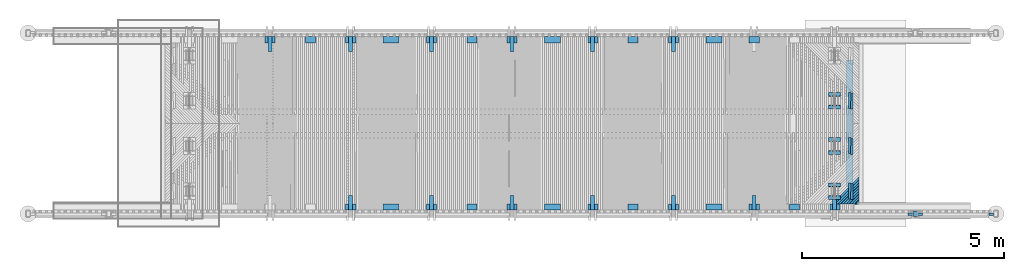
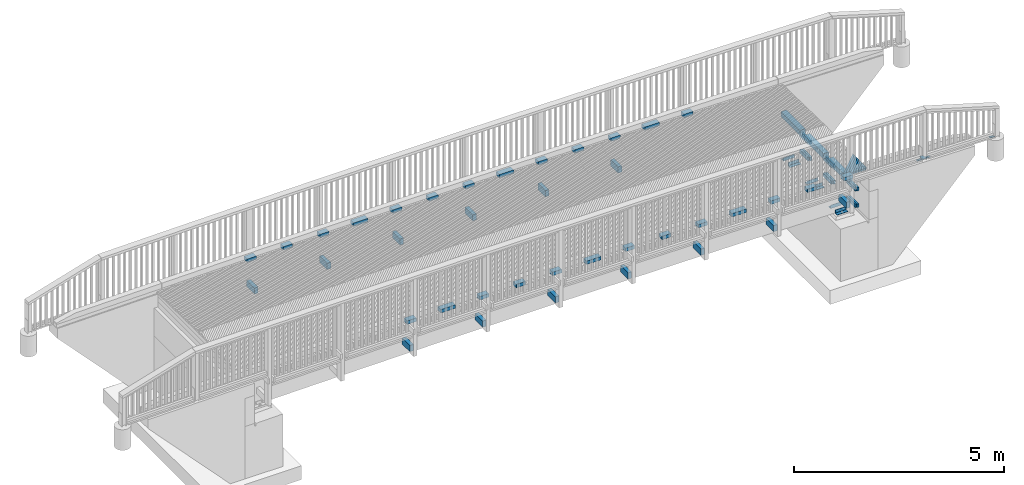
# One storey, part 48 of 52: 73 beams.
"""IFC2X3 building model written with IfcOpenShell, lengths in millimetres."""

from ifc_helpers import new_model, si_unit, frame, origin_with_axes, place, context, subcontext, project, spatial, faceted_brep, material, type_object, element, save


model = new_model("IFC2X3")

# Units and contexts
model_context = context("Model", 3, precision=1e-05, world=origin_with_axes())
body_context = subcontext(model_context, "Body", "Model", "MODEL_VIEW")
ifc_project = project(units=[si_unit("LENGTHUNIT", "METRE", prefix="MILLI"), si_unit("AREAUNIT", "SQUARE_METRE"), si_unit("VOLUMEUNIT", "CUBIC_METRE"), si_unit("MASSUNIT", "GRAM", prefix="KILO"), si_unit("TIMEUNIT", "SECOND"), si_unit("PLANEANGLEUNIT", "RADIAN"), si_unit("SOLIDANGLEUNIT", "STERADIAN"), si_unit("THERMODYNAMICTEMPERATUREUNIT", "DEGREE_CELSIUS"), si_unit("LUMINOUSINTENSITYUNIT", "LUMEN")], contexts=[model_context])

# Site, building, storey
site_placement = place(None, origin_with_axes())
site = spatial("IfcSite", under=ifc_project, at=site_placement, Name="Undefined", CompositionType="ELEMENT")
building_placement = place(site_placement, origin_with_axes())
building = spatial("IfcBuilding", under=site, at=building_placement, Name="Undefined", CompositionType="ELEMENT")
storey_placement = place(building_placement, origin_with_axes())
storey = spatial("IfcBuildingStorey", under=building, at=storey_placement, Name="Undefined", CompositionType="ELEMENT", Elevation=0.0)

# Beams
ifc_material_1 = material(Name="TIMBER/Timber_Undefined")
beam_type_1 = type_object("IfcBeamType", Name="150*100", PredefinedType="NOTDEFINED")
for number, where, z_axis, x_axis in (
    (1, (12805.9377995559, 289.999999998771, 3199.40960826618), (0.0, -1.0, 0.0), (0.999944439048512, 0.0, -0.0105412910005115)),
    (2, (8804.3535367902, 289.999999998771, 3218.05327472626), (0.0, -1.0, 0.0), (0.999992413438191, 0.0, -0.00389526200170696)),
    (3, (4802.73374412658, 289.999999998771, 3210.1013407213), (0.0, -1.0, 0.0), (0.9999962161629, 0.0, 0.002750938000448)),
    (4, (4802.73374412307, 4439.99999999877, 3210.10134072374), (0.0, -1.0, 0.0), (0.9999962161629, 0.0, 0.002750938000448)),
    (5, (8804.3535367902, 4439.99999999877, 3218.05327472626), (0.0, -1.0, 0.0), (0.999992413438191, 0.0, -0.00389526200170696)),
    (6, (12805.9377995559, 4439.99999999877, 3199.40960826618), (0.0, -1.0, 0.0), (0.999944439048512, 0.0, -0.0105412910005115)),
):
    element("IfcBeam", number, at=place(storey_placement, frame(where, z_axis=z_axis, x_axis=x_axis)), inside=storey, type_object=beam_type_1, material=ifc_material_1, Name="TÖRMÄYSJOHDE", ObjectType="150*100", context=body_context, shape_type="Brep", body=[
        faceted_brep([(-3.63797880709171e-12, 50.0, -75.0), (-3.63797880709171e-12, 50.0, 75.0), (399.996161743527, 49.9999999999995, 75.0), (399.996161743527, 49.9999999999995, -75.0), (0.0, -49.9999999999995, 75.0), (399.996161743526, -50.0000000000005, 75.0), (0.0, -49.9999999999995, -75.0), (399.996161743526, -50.0000000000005, -75.0)], [[[0, 1, 2, 3]], [[1, 4, 5, 2]], [[4, 6, 7, 5]], [[6, 0, 3, 7]], [[5, 7, 3, 2]], [[6, 4, 1, 0]]]),
    ])
for number, where, z_axis, x_axis in (
    (7, (2876.78354707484, 4439.99999999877, 3196.15064859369), (0.0, -1.0, 0.0), (0.999952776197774, 0.0, 0.00971830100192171)),
    (8, (15881.7966501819, 289.999999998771, 3166.35655532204), (0.0, -1.0, 0.0), (0.999929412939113, 0.0, -0.0118814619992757)),
    (9, (14881.4642555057, 289.999999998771, 3178.62153167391), (0.0, -1.0, 0.0), (0.999947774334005, 0.0, -0.0102200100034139)),
    (10, (13881.1128627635, 4439.99999999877, 3189.22438612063), (0.0, -1.0, 0.0), (0.99996337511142, 0.0, -0.00855853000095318)),
    (11, (13881.1128627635, 289.999999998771, 3189.22438612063), (0.0, -1.0, 0.0), (0.99996337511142, 0.0, -0.00855853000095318)),
    (12, (11880.3641300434, 4439.99999999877, 3205.44361680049), (0.0, -1.0, 0.0), (0.999986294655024, 0.0, -0.00523550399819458)),
    (13, (11880.3641300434, 289.999999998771, 3205.44361680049), (0.0, -1.0, 0.0), (0.999986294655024, 0.0, -0.00523550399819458)),
    (14, (10879.9723136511, 4439.99999999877, 3211.05994825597), (0.0, -1.0, 0.0), (0.999993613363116, 0.0, -0.00357396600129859)),
    (15, (10879.9723136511, 289.999999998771, 3211.05994825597), (0.0, -1.0, 0.0), (0.999993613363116, 0.0, -0.00357396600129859)),
    (16, (9879.57254634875, 4439.99999999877, 3215.01406825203), (0.0, -1.0, 0.0), (0.999998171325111, 0.0, -0.00191241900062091)),
    (17, (9879.57254634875, 289.999999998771, 3215.01406825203), (0.0, -1.0, 0.0), (0.999998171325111, 0.0, -0.00191241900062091)),
    (18, (7878.76020647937, 4439.99999999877, 3217.93563478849), (0.0, -1.0, 0.0), (0.99999900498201, 0.0, 0.00141068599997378)),
    (19, (7878.76020647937, 289.999999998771, 3217.93563478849), (0.0, -1.0, 0.0), (0.99999900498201, 0.0, 0.00141068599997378)),
    (20, (6878.35315767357, 4439.99999999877, 3216.90307326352), (0.0, -1.0, 0.0), (0.99999528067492, 0.0, 0.00307223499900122)),
    (21, (6878.35315767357, 289.999999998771, 3216.90307326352), (0.0, -1.0, 0.0), (0.99999528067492, 0.0, 0.00307223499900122)),
    (22, (5877.94920546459, 4439.99999999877, 3214.20828414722), (0.0, -1.0, 0.0), (0.99998879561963, 0.0, 0.00473377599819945)),
    (23, (5877.94920546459, 289.999999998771, 3214.20828414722), (0.0, -1.0, 0.0), (0.99998879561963, 0.0, 0.00473377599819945)),
    (24, (3877.16163831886, 4439.99999999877, 3203.83205748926), (0.0, -1.0, 0.0), (0.999967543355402, 0.0, 0.00805681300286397)),
    (25, (3877.16163831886, 289.999999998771, 3203.83205748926), (0.0, -1.0, 0.0), (0.999967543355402, 0.0, 0.00805681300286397)),
    (26, (1876.41959979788, 4439.99999999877, 3186.80706939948), (0.0, -1.0, 0.0), (0.999935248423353, 0.0, 0.0113797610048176)),
):
    element("IfcBeam", number, at=place(storey_placement, frame(where, z_axis=z_axis, x_axis=x_axis)), inside=storey, type_object=beam_type_1, material=ifc_material_1, Name="TÖRMÄYSJOHDE", ObjectType="150*100", context=body_context, shape_type="Brep", body=[
        faceted_brep([(-3.63797880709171e-12, 50.0, -75.0), (-3.63797880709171e-12, 50.0, 75.0), (250.000589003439, 50.0000000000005, 75.0), (250.000589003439, 50.0000000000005, -75.0), (0.0, -49.9999999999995, 75.0), (250.000589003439, -50.0, 75.0), (0.0, -49.9999999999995, -75.0), (250.000589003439, -50.0, -75.0)], [[[0, 1, 2, 3]], [[1, 4, 5, 2]], [[4, 6, 7, 5]], [[6, 0, 3, 7]], [[5, 7, 3, 2]], [[6, 4, 1, 0]]]),
    ])
beam_type_2 = type_object("IfcBeamType", Name="150*150", PredefinedType="NOTDEFINED")
for number, where, z_axis, x_axis, name in (
    (27, (16375.0061224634, 3035.00113004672, 2658.99214114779), (-4.45050000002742e-05, 0.0, 0.999999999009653), (0.0, 1.0, 0.0), "BEAM"),
    (28, (16375.0061224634, 1915.00113004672, 2658.99214114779), (-4.45050000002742e-05, 0.0, 0.999999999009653), (0.0, 1.0, 0.0), "BEAM"),
    (29, (16375.0061224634, 795.001130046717, 2658.99214114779), (-4.45050000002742e-05, 0.0, 0.999999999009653), (0.0, 1.0, 0.0), "BEAM"),
):
    element("IfcBeam", number, at=place(storey_placement, frame(where, z_axis=z_axis, x_axis=x_axis)), inside=storey, type_object=beam_type_2, material=ifc_material_1, Name=name, ObjectType="150*150", context=body_context, shape_type="Brep", body=[
        faceted_brep([(3.63797880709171e-12, 75.0000000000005, -75.0), (3.63797880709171e-12, 75.0000000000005, 75.0), (900.0, 75.0, 75.0000000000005), (900.0, 74.9999999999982, -74.9999999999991), (0.0, -75.0000000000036, 75.0000000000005), (900.0, -75.0000000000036, 75.0000000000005), (0.0, -75.0, -74.9999999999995), (900.0, -75.0, -74.9999999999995)], [[[0, 1, 2, 3]], [[1, 4, 5, 2]], [[4, 6, 7, 5]], [[6, 0, 3, 7]], [[5, 7, 3, 2]], [[6, 4, 1, 0]]]),
    ])
ifc_material_2 = material(Name="STEEL/AISI316")
beam_type_3 = type_object("IfcBeamType", Name="PL60*10", PredefinedType="NOTDEFINED")
for number, where, z_axis, x_axis in (
    (30, (19940.0034960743, 109.999999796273, 3073.75999999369), (0.000116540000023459, 0.999999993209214, 0.0), (-0.999999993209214, 0.000116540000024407, 0.0)),
    (31, (18059.9965039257, 109.999999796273, 3101.8699999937), (-0.000116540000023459, 0.999999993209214, 0.0), (0.999999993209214, 0.000116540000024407, 0.0)),
    (32, (17940.0034960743, 109.999999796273, 3101.86999999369), (0.000116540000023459, 0.999999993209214, 0.0), (-0.999999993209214, 0.000116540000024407, 0.0)),
):
    element("IfcBeam", number, at=place(storey_placement, frame(where, z_axis=z_axis, x_axis=x_axis)), inside=storey, type_object=beam_type_3, material=ifc_material_2, Name="KAIDEPYLVÄS", ObjectType="PL60*10", context=body_context, shape_type="Brep", body=[
        faceted_brep([(0.0, 5.0, -30.0), (3.63797880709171e-12, 5.0, 30.0000000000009), (115.000000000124, 5.0, 30.0000000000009), (115.000000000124, 5.0, -30.0), (3.63797880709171e-12, -5.0, 30.0000000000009), (115.000000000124, -5.0, 30.0000000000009), (0.0, -5.0, -30.0), (115.000000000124, -5.0, -30.0)], [[[0, 1, 2, 3]], [[1, 4, 5, 2]], [[4, 6, 7, 5]], [[6, 0, 3, 7]], [[5, 7, 3, 2]], [[6, 4, 1, 0]]]),
    ])
beam_type_4 = type_object("IfcBeamType", Name="PL100*10", PredefinedType="NOTDEFINED")
beam_1_placement = place(storey_placement, frame((17999.9999998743, 55.0200000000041, 3117.67000000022), z_axis=(1.0, 0.0, 0.0), x_axis=(0.0, 1.0, 0.0)))
element("IfcBeam", 33, at=beam_1_placement, inside=storey, type_object=beam_type_4, material=ifc_material_2, Name="KAIDEPYLVÄS", ObjectType="PL100*10", context=body_context, shape_type="Brep", body=[
    faceted_brep([(0.0, 5.0, -50.0), (0.0, 5.0, 50.0), (140.0, 5.0, 50.0), (140.0, 5.0, -50.0), (0.0, -5.0, 50.0), (140.0, -5.0, 50.0), (0.0, -5.0, -50.0), (140.0, -5.0, -50.0)], [[[0, 1, 2, 3]], [[1, 4, 5, 2]], [[4, 6, 7, 5]], [[6, 0, 3, 7]], [[5, 7, 3, 2]], [[6, 4, 1, 0]]]),
])
ifc_material_3 = material(Name="STEEL/S235JR")
beam_type_5 = type_object("IfcBeamType", Name="L100*10", PredefinedType="NOTDEFINED")
for number, where, z_axis, x_axis, name in (
    (34, (16150.0, 2767.50000000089, 2047.33), (0.0, -1.0, 0.0), (-1.0, 0.0, 0.0), "BEAM"),
    (35, (16150.0, 3082.50000000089, 2047.33), (0.0, 0.0, 1.0), (-1.0, 0.0, 0.0), "BEAM"),
    (36, (15850.0, 1962.5, 2047.33), (0.0, 1.0, 0.0), (1.0, 0.0, 0.0), "BEAM"),
    (37, (15850.0, 1647.5, 2047.33), (0.0, 0.0, 1.0), (1.0, 0.0, 0.0), "BEAM"),
    (38, (15850.0, 842.5, 2025.33), (0.0, 1.0, 0.0), (1.0, 0.0, 0.0), "BEAM"),
    (39, (15850.0, 527.5, 2025.33), (0.0, 0.0, 1.0), (1.0, 0.0, 0.0), "BEAM"),
):
    element("IfcBeam", number, at=place(storey_placement, frame(where, z_axis=z_axis, x_axis=x_axis)), inside=storey, type_object=beam_type_5, material=ifc_material_3, Name=name, ObjectType="L100*10", context=body_context, shape_type="Brep", body=[
        faceted_brep([(0.0, 50.0, -50.0), (0.0, 50.0, 50.0), (300.0, 50.0, 50.0), (300.0, 50.0, -50.0), (0.0, 40.0, 50.0), (300.0, 40.0, 50.0), (0.0, 40.0, -40.0), (300.0, 40.0, -40.0), (0.0, -50.0, -40.0), (300.0, -50.0, -40.0), (0.0, -50.0, -50.0), (300.0, -50.0, -50.0)], [[[0, 1, 2, 3]], [[1, 4, 5, 2]], [[4, 6, 7, 5]], [[6, 8, 9, 7]], [[8, 10, 11, 9]], [[10, 0, 3, 11]], [[5, 7, 9, 11, 3, 2]], [[10, 8, 6, 4, 1, 0]]]),
    ])
beam_type_6 = type_object("IfcBeamType", Name="100*60", PredefinedType="NOTDEFINED")
beam_2_placement = place(storey_placement, frame((16380.01, 2737.5, 2533.62000000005), z_axis=(0.0, 0.0, 1.0), x_axis=(0.0, 1.0, 0.0)))
element("IfcBeam", 40, at=beam_2_placement, inside=storey, type_object=beam_type_6, material=ifc_material_1, Name="BEAM", ObjectType="100*60", context=body_context, shape_type="Brep", body=[
    faceted_brep([(0.0, 30.0, -50.0), (0.0, 30.0, 50.0), (395.0, 30.0, 50.0), (395.0, 30.0, -50.0), (395.0, -25.2500000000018, 50.0), (395.0, -25.2500000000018, -50.0), (0.0, -15.2499998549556, -50.0), (0.0, -15.2499998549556, 50.0)], [[[0, 1, 2, 3]], [[3, 2, 4, 5]], [[0, 3, 5, 6]], [[1, 0, 6, 7]], [[2, 1, 7, 4]], [[6, 5, 4, 7]]]),
])
beam_3_placement = place(storey_placement, frame((16420.01, 2717.5, 2533.62000000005), z_axis=(0.0, 0.0, 1.0), x_axis=(0.0, 1.0, 0.0)))
element("IfcBeam", 41, at=beam_3_placement, inside=storey, type_object=beam_type_6, material=ifc_material_1, Name="BEAM", ObjectType="100*60", context=body_context, shape_type="Brep", body=[
    faceted_brep([(0.0, -30.0, 50.0), (0.0, -30.0, -50.0), (395.0, -30.0, -50.0), (395.0, -30.0, 50.0), (395.0, 15.2563291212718, 50.0), (0.0, 25.2563292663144, 50.0), (0.0, 25.2563292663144, -50.0), (395.0, 15.2563291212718, -50.0)], [[[0, 1, 2, 3]], [[0, 3, 4, 5]], [[1, 0, 5, 6]], [[2, 1, 6, 7]], [[3, 2, 7, 4]], [[6, 5, 4, 7]]]),
])
beam_4_placement = place(storey_placement, frame((16380.0, 2737.5, 2055.33), z_axis=(0.0, 0.0, 1.0), x_axis=(0.0, 1.0, 0.0)))
element("IfcBeam", 42, at=beam_4_placement, inside=storey, type_object=beam_type_6, material=ifc_material_1, Name="BEAM", ObjectType="100*60", context=body_context, shape_type="Brep", body=[
    faceted_brep([(0.0, 30.0, -50.0), (0.0, 30.0, 50.0), (395.0, 30.0, 50.0), (395.0, 30.0, -50.0), (395.0, -25.2500000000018, 50.0), (395.0, -25.2500000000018, -50.0), (0.0, -15.2499998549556, -50.0), (0.0, -15.2499998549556, 50.0)], [[[0, 1, 2, 3]], [[3, 2, 4, 5]], [[0, 3, 5, 6]], [[1, 0, 6, 7]], [[2, 1, 7, 4]], [[6, 5, 4, 7]]]),
])
beam_5_placement = place(storey_placement, frame((16420.0, 2717.5, 2055.33), z_axis=(0.0, 0.0, 1.0), x_axis=(0.0, 1.0, 0.0)))
element("IfcBeam", 43, at=beam_5_placement, inside=storey, type_object=beam_type_6, material=ifc_material_1, Name="BEAM", ObjectType="100*60", context=body_context, shape_type="Brep", body=[
    faceted_brep([(0.0, -30.0, 50.0), (0.0, -30.0, -50.0), (395.0, -30.0, -50.0), (395.0, -30.0, 50.0), (395.0, 15.2563291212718, 50.0), (0.0, 25.2563292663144, 50.0), (0.0, 25.2563292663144, -50.0), (395.0, 15.2563291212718, -50.0)], [[[0, 1, 2, 3]], [[0, 3, 4, 5]], [[1, 0, 5, 6]], [[2, 1, 6, 7]], [[3, 2, 7, 4]], [[6, 5, 4, 7]]]),
])
beam_6_placement = place(storey_placement, frame((16380.01, 1617.5, 2533.62000000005), z_axis=(0.0, 0.0, 1.0), x_axis=(0.0, 1.0, 0.0)))
element("IfcBeam", 44, at=beam_6_placement, inside=storey, type_object=beam_type_6, material=ifc_material_1, Name="BEAM", ObjectType="100*60", context=body_context, shape_type="Brep", body=[
    faceted_brep([(0.0, 30.0, -50.0), (0.0, 30.0, 50.0), (395.0, 30.0, 50.0), (395.0, 30.0, -50.0), (395.0, -25.2500000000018, 50.0), (395.0, -25.2500000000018, -50.0), (0.0, -15.2499998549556, -50.0), (0.0, -15.2499998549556, 50.0)], [[[0, 1, 2, 3]], [[3, 2, 4, 5]], [[0, 3, 5, 6]], [[1, 0, 6, 7]], [[2, 1, 7, 4]], [[6, 5, 4, 7]]]),
])
beam_7_placement = place(storey_placement, frame((16420.01, 1597.5, 2533.62000000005), z_axis=(0.0, 0.0, 1.0), x_axis=(0.0, 1.0, 0.0)))
element("IfcBeam", 45, at=beam_7_placement, inside=storey, type_object=beam_type_6, material=ifc_material_1, Name="BEAM", ObjectType="100*60", context=body_context, shape_type="Brep", body=[
    faceted_brep([(0.0, -30.0, 50.0), (0.0, -30.0, -50.0), (395.0, -30.0, -50.0), (395.0, -30.0, 50.0), (395.0, 15.2563291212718, 50.0), (0.0, 25.2563292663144, 50.0), (0.0, 25.2563292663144, -50.0), (395.0, 15.2563291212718, -50.0)], [[[0, 1, 2, 3]], [[0, 3, 4, 5]], [[1, 0, 5, 6]], [[2, 1, 6, 7]], [[3, 2, 7, 4]], [[6, 5, 4, 7]]]),
])
beam_8_placement = place(storey_placement, frame((16380.0, 1617.5, 2055.33), z_axis=(0.0, 0.0, 1.0), x_axis=(0.0, 1.0, 0.0)))
element("IfcBeam", 46, at=beam_8_placement, inside=storey, type_object=beam_type_6, material=ifc_material_1, Name="BEAM", ObjectType="100*60", context=body_context, shape_type="Brep", body=[
    faceted_brep([(0.0, 30.0, -50.0), (0.0, 30.0, 50.0), (395.0, 30.0, 50.0), (395.0, 30.0, -50.0), (395.0, -25.2500000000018, 50.0), (395.0, -25.2500000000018, -50.0), (0.0, -15.2499998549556, -50.0), (0.0, -15.2499998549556, 50.0)], [[[0, 1, 2, 3]], [[3, 2, 4, 5]], [[0, 3, 5, 6]], [[1, 0, 6, 7]], [[2, 1, 7, 4]], [[6, 5, 4, 7]]]),
])
beam_9_placement = place(storey_placement, frame((16420.0, 1597.5, 2055.33), z_axis=(0.0, 0.0, 1.0), x_axis=(0.0, 1.0, 0.0)))
element("IfcBeam", 47, at=beam_9_placement, inside=storey, type_object=beam_type_6, material=ifc_material_1, Name="BEAM", ObjectType="100*60", context=body_context, shape_type="Brep", body=[
    faceted_brep([(0.0, -30.0, 50.0), (0.0, -30.0, -50.0), (395.0, -30.0, -50.0), (395.0, -30.0, 50.0), (395.0, 15.2563291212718, 50.0), (0.0, 25.2563292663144, 50.0), (0.0, 25.2563292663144, -50.0), (395.0, 15.2563291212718, -50.0)], [[[0, 1, 2, 3]], [[0, 3, 4, 5]], [[1, 0, 5, 6]], [[2, 1, 6, 7]], [[3, 2, 7, 4]], [[6, 5, 4, 7]]]),
])
beam_10_placement = place(storey_placement, frame((16380.01, 497.5, 2533.62000000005), z_axis=(0.0, 0.0, 1.0), x_axis=(0.0, 1.0, 0.0)))
element("IfcBeam", 48, at=beam_10_placement, inside=storey, type_object=beam_type_6, material=ifc_material_1, Name="BEAM", ObjectType="100*60", context=body_context, shape_type="Brep", body=[
    faceted_brep([(0.0, 30.0, -50.0), (0.0, 30.0, 50.0), (395.0, 30.0, 50.0), (395.0, 30.0, -50.0), (395.0, -25.2500000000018, 50.0), (395.0, -25.2500000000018, -50.0), (0.0, -15.2499998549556, -50.0), (0.0, -15.2499998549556, 50.0)], [[[0, 1, 2, 3]], [[3, 2, 4, 5]], [[0, 3, 5, 6]], [[1, 0, 6, 7]], [[2, 1, 7, 4]], [[6, 5, 4, 7]]]),
])
beam_11_placement = place(storey_placement, frame((16420.01, 477.5, 2533.62000000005), z_axis=(0.0, 0.0, 1.0), x_axis=(0.0, 1.0, 0.0)))
element("IfcBeam", 49, at=beam_11_placement, inside=storey, type_object=beam_type_6, material=ifc_material_1, Name="BEAM", ObjectType="100*60", context=body_context, shape_type="Brep", body=[
    faceted_brep([(0.0, -30.0, 50.0), (0.0, -30.0, -50.0), (395.0, -30.0, -50.0), (395.0, -30.0, 50.0), (395.0, 15.2563291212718, 50.0), (0.0, 25.2563292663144, 50.0), (0.0, 25.2563292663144, -50.0), (395.0, 15.2563291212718, -50.0)], [[[0, 1, 2, 3]], [[0, 3, 4, 5]], [[1, 0, 5, 6]], [[2, 1, 6, 7]], [[3, 2, 7, 4]], [[6, 5, 4, 7]]]),
])
beam_12_placement = place(storey_placement, frame((16380.0, 497.5, 2055.33), z_axis=(0.0, 0.0, 1.0), x_axis=(0.0, 1.0, 0.0)))
element("IfcBeam", 50, at=beam_12_placement, inside=storey, type_object=beam_type_6, material=ifc_material_1, Name="BEAM", ObjectType="100*60", context=body_context, shape_type="Brep", body=[
    faceted_brep([(0.0, 30.0, -50.0), (0.0, 30.0, 50.0), (395.0, 30.0, 50.0), (395.0, 30.0, -50.0), (395.0, -25.2500000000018, 50.0), (395.0, -25.2500000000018, -50.0), (0.0, -15.2499998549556, -50.0), (0.0, -15.2499998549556, 50.0)], [[[0, 1, 2, 3]], [[3, 2, 4, 5]], [[0, 3, 5, 6]], [[1, 0, 6, 7]], [[2, 1, 7, 4]], [[6, 5, 4, 7]]]),
])
beam_13_placement = place(storey_placement, frame((16420.0, 477.5, 2055.33), z_axis=(0.0, 0.0, 1.0), x_axis=(0.0, 1.0, 0.0)))
element("IfcBeam", 51, at=beam_13_placement, inside=storey, type_object=beam_type_6, material=ifc_material_1, Name="BEAM", ObjectType="100*60", context=body_context, shape_type="Brep", body=[
    faceted_brep([(0.0, -30.0, 50.0), (0.0, -30.0, -50.0), (395.0, -30.0, -50.0), (395.0, -30.0, 50.0), (395.0, 15.2563291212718, 50.0), (0.0, 25.2563292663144, 50.0), (0.0, 25.2563292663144, -50.0), (395.0, 15.2563291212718, -50.0)], [[[0, 1, 2, 3]], [[0, 3, 4, 5]], [[1, 0, 5, 6]], [[2, 1, 6, 7]], [[3, 2, 7, 4]], [[6, 5, 4, 7]]]),
])
beam_type_7 = type_object("IfcBeamType", Name="50*50", PredefinedType="NOTDEFINED")
beam_14_placement = place(storey_placement, frame((18531.7317784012, 2364.50010032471, 3144.0077743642), z_axis=(0.706781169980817, -0.706981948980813, -0.0252369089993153), x_axis=(-0.707258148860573, -0.706948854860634, -0.00303767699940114)))
element("IfcBeam", 52, at=beam_14_placement, inside=storey, type_object=beam_type_7, material=ifc_material_1, Name="BEAM", ObjectType="50*50", context=body_context, shape_type="Brep", body=[
    faceted_brep([(2802.92643296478, -25.0, 25.0000000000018), (2852.92877373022, -25.0, -24.9999999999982), (2854.34301907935, 25.0, -24.9999999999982), (2804.3406783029, 25.0000000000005, 25.0000000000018), (2705.75872714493, 25.0000000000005, -24.9999999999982), (2755.72500686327, 25.0, 25.0000000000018), (2756.83447595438, -24.9999999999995, 25.0000000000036), (2706.86819623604, -25.0, -24.9999999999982)], [[[0, 1, 2, 3]], [[3, 2, 4, 5]], [[0, 3, 5, 6]], [[1, 0, 6, 7]], [[2, 1, 7, 4]], [[6, 5, 4, 7]]]),
])
beam_15_placement = place(storey_placement, frame((18461.0182922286, 2364.50010032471, 3145.24068549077), z_axis=(0.7067841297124, -0.706981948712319, -0.0251538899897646), x_axis=(-0.70725778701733, -0.706948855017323, -0.00312075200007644)))
element("IfcBeam", 53, at=beam_15_placement, inside=storey, type_object=beam_type_7, material=ifc_material_1, Name="BEAM", ObjectType="50*50", context=body_context, shape_type="Brep", body=[
    faceted_brep([(2802.92643296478, -25.0, 25.0000000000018), (2852.92877373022, -25.0, -24.9999999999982), (2854.34301907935, 25.0, -24.9999999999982), (2804.3406783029, 25.0000000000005, 25.0000000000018), (2605.78153801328, 25.0, -24.9999999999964), (2655.74805253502, 24.9999999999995, 25.0000000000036), (2656.84922092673, -25.0000000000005, 25.0000000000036), (2606.88270640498, -25.0000000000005, -24.9999999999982)], [[[0, 1, 2, 3]], [[3, 2, 4, 5]], [[0, 3, 5, 6]], [[1, 0, 6, 7]], [[2, 1, 7, 4]], [[6, 5, 4, 7]]]),
])
beam_16_placement = place(storey_placement, frame((18390.3046617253, 2364.50010032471, 3146.4652905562), z_axis=(0.70678707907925, -0.70698194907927, -0.0250708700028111), x_axis=(-0.707257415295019, -0.70694885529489, -0.00320382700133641)))
element("IfcBeam", 54, at=beam_16_placement, inside=storey, type_object=beam_type_7, material=ifc_material_1, Name="BEAM", ObjectType="50*50", context=body_context, shape_type="Brep", body=[
    faceted_brep([(2802.92643296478, -25.0, 25.0000000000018), (2852.92877373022, -25.0, -24.9999999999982), (2854.34301907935, 25.0, -24.9999999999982), (2804.3406783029, 25.0000000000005, 25.0000000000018), (2505.80407790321, 25.0000000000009, -25.0000000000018), (2555.77082719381, 25.0000000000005, 24.9999999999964), (2556.86369484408, -25.0, 24.9999999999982), (2506.89694555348, -24.9999999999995, -25.0000000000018)], [[[0, 1, 2, 3]], [[3, 2, 4, 5]], [[0, 3, 5, 6]], [[1, 0, 6, 7]], [[2, 1, 7, 4]], [[6, 5, 4, 7]]]),
])
beam_17_placement = place(storey_placement, frame((18319.5908878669, 2364.50010032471, 3147.68158954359), z_axis=(0.706790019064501, -0.706981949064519, -0.0249878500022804), x_axis=(-0.707257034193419, -0.706948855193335, -0.00328690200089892)))
element("IfcBeam", 55, at=beam_17_placement, inside=storey, type_object=beam_type_7, material=ifc_material_1, Name="BEAM", ObjectType="50*50", context=body_context, shape_type="Brep", body=[
    faceted_brep([(2802.92643296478, -25.0, 25.0000000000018), (2852.92877373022, -25.0, -24.9999999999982), (2854.34301907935, 25.0, -24.9999999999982), (2804.3406783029, 25.0000000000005, 25.0000000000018), (2405.82634224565, 25.0, -24.9999999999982), (2455.79332630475, 25.0000000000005, 25.0000000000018), (2456.87789321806, -24.9999999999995, 25.0000000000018), (2406.91090915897, -24.9999999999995, -24.9999999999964)], [[[0, 1, 2, 3]], [[3, 2, 4, 5]], [[0, 3, 5, 6]], [[1, 0, 6, 7]], [[2, 1, 7, 4]], [[6, 5, 4, 7]]]),
])
beam_18_placement = place(storey_placement, frame((18248.8769716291, 2364.50010032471, 3148.88958243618), z_axis=(0.706792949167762, -0.706981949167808, -0.0249048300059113), x_axis=(-0.707256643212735, -0.706948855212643, -0.00336997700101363)))
element("IfcBeam", 56, at=beam_18_placement, inside=storey, type_object=beam_type_7, material=ifc_material_1, Name="BEAM", ObjectType="50*50", context=body_context, shape_type="Brep", body=[
    faceted_brep([(2802.92643296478, -25.0, 25.0000000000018), (2852.92877373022, -25.0, -24.9999999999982), (2854.34301907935, 25.0, -24.9999999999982), (2804.3406783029, 25.0000000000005, 25.0000000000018), (2305.84833008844, 24.9999999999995, -24.9999999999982), (2355.81554891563, 24.9999999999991, 25.0000000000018), (2356.89181509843, -25.0000000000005, 25.0000000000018), (2306.92459627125, -25.0, -24.9999999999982)], [[[0, 1, 2, 3]], [[3, 2, 4, 5]], [[0, 3, 5, 6]], [[1, 0, 6, 7]], [[2, 1, 7, 4]], [[6, 5, 4, 7]]]),
])
beam_19_placement = place(storey_placement, frame((18178.1629139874, 2364.50010032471, 3150.08926921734), z_axis=(0.706795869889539, -0.706981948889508, -0.0248218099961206), x_axis=(-0.707256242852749, -0.706948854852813, -0.00345305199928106)))
element("IfcBeam", 57, at=beam_19_placement, inside=storey, type_object=beam_type_7, material=ifc_material_1, Name="BEAM", ObjectType="50*50", context=body_context, shape_type="Brep", body=[
    faceted_brep([(2802.92643296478, -25.0, 25.0000000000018), (2852.92877373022, -25.0, -24.9999999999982), (2854.34301907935, 25.0, -24.9999999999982), (2804.3406783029, 25.0000000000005, 25.0000000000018), (2205.87003704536, 25.0000000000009, -25.0), (2255.8374906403, 25.0, 25.0000000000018), (2256.90545609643, -25.0, 25.0), (2206.93800250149, -24.9999999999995, -25.0)], [[[0, 1, 2, 3]], [[3, 2, 4, 5]], [[0, 3, 5, 6]], [[1, 0, 6, 7]], [[2, 1, 7, 4]], [[6, 5, 4, 7]]]),
])
beam_20_placement = place(storey_placement, frame((18107.4487159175, 2364.50010032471, 3151.28064987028), z_axis=(0.706798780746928, -0.706981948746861, -0.0247387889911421), x_axis=(-0.707255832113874, -0.706948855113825, -0.00353612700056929)))
element("IfcBeam", 58, at=beam_20_placement, inside=storey, type_object=beam_type_7, material=ifc_material_1, Name="BEAM", ObjectType="50*50", context=body_context, shape_type="Brep", body=[
    faceted_brep([(2802.92643296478, -25.0, 25.0000000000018), (2852.92877373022, -25.0, -24.9999999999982), (2854.34301907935, 25.0, -24.9999999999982), (2804.3406783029, 25.0000000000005, 25.0000000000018), (2105.891463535, 25.0, -24.9999999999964), (2155.85915193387, 25.0, 25.0000000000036), (2156.91881662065, -24.9999999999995, 25.0000000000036), (2106.95112822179, -24.9999999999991, -24.9999999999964)], [[[0, 1, 2, 3]], [[3, 2, 4, 5]], [[0, 3, 5, 6]], [[1, 0, 6, 7]], [[2, 1, 7, 4]], [[6, 5, 4, 7]]]),
])
beam_21_placement = place(storey_placement, frame((18036.7343783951, 2364.50010032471, 3152.46372437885), z_axis=(0.706801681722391, -0.706981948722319, -0.024655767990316), x_axis=(-0.707255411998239, -0.70694885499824, -0.00361920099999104)))
element("IfcBeam", 59, at=beam_21_placement, inside=storey, type_object=beam_type_7, material=ifc_material_1, Name="BEAM", ObjectType="50*50", context=body_context, shape_type="Brep", body=[
    faceted_brep([(2802.92643296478, -25.0, 25.0000000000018), (2852.92877373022, -25.0, -24.9999999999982), (2854.34301907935, 25.0, -24.9999999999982), (2804.3406783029, 25.0000000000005, 25.0000000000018), (2005.91260364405, 25.0, -24.9999999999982), (2055.88052681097, 24.9999999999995, 25.0000000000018), (2056.9318907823, -25.0, 25.0000000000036), (2006.96396761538, -25.0000000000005, -24.9999999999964)], [[[0, 1, 2, 3]], [[3, 2, 4, 5]], [[0, 3, 5, 6]], [[1, 0, 6, 7]], [[2, 1, 7, 4]], [[6, 5, 4, 7]]]),
])
beam_22_placement = place(storey_placement, frame((17966.0199023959, 2364.50010032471, 3153.6384927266), z_axis=(0.70680457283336, -0.706981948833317, -0.0245727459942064), x_axis=(-0.707254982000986, -0.706948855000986, -0.00370227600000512)))
element("IfcBeam", 60, at=beam_22_placement, inside=storey, type_object=beam_type_7, material=ifc_material_1, Name="BEAM", ObjectType="50*50", context=body_context, shape_type="Brep", body=[
    faceted_brep([(2802.92643296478, -25.0, 25.0000000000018), (2852.92877373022, -25.0, -24.9999999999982), (2854.34301907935, 25.0, -24.9999999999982), (2804.3406783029, 25.0000000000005, 25.0000000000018), (1905.9334562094, 25.0, -25.0), (1955.90161414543, 25.0, 25.0), (1956.94467730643, -25.0, 24.9999999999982), (1906.9765193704, -25.0, -25.0)], [[[0, 1, 2, 3]], [[3, 2, 4, 5]], [[0, 3, 5, 6]], [[1, 0, 6, 7]], [[2, 1, 7, 4]], [[6, 5, 4, 7]]]),
])
beam_type_8 = type_object("IfcBeamType", Name="180*100", PredefinedType="NOTDEFINED")
for number, where, z_axis, x_axis in (
    (61, (16000.0000678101, 215.01209190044, 2385.26004297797), (0.0, 0.0, 1.0), (0.0, 1.0, 0.0)),
    (62, (14000.0000678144, 215.01209190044, 2408.46176690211), (0.0, 0.0, 1.0), (0.0, 1.0, 0.0)),
):
    element("IfcBeam", number, at=place(storey_placement, frame(where, z_axis=z_axis, x_axis=x_axis)), inside=storey, type_object=beam_type_8, material=ifc_material_1, Name="KAIDEPYLVÄS", ObjectType="180*100", context=body_context, shape_type="Brep", body=[
        faceted_brep([(0.0, 50.0, -90.0), (0.0, 50.0, 90.0), (363.740000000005, 50.0, 90.0), (363.740000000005, 50.0, -90.0), (0.0, -50.0, 90.0), (363.740000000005, -50.0, 90.0), (0.0, -50.0, -90.0), (363.740000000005, -50.0, -90.0)], [[[0, 1, 2, 3]], [[1, 4, 5, 2]], [[4, 6, 7, 5]], [[6, 0, 3, 7]], [[5, 7, 3, 2]], [[6, 4, 1, 0]]]),
    ])
beam_23_placement = place(storey_placement, frame((12000.0000678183, 4514.98790809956, 2425.03388065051), z_axis=(0.0, 0.0, 1.0), x_axis=(0.0, -1.0, 0.0)))
element("IfcBeam", 63, at=beam_23_placement, inside=storey, type_object=beam_type_8, material=ifc_material_1, Name="KAIDEPYLVÄS", ObjectType="180*100", context=body_context, shape_type="Brep", body=[
    faceted_brep([(0.0, 50.0, -90.0), (0.0, 50.0, 90.0), (362.490000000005, 50.0, 90.0), (362.490000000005, 50.0, -90.0), (0.0, -50.0, 90.0), (362.490000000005, -50.0, 90.0), (0.0, -50.0, -90.0), (362.490000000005, -50.0, -90.0)], [[[0, 1, 2, 3]], [[1, 4, 5, 2]], [[4, 6, 7, 5]], [[6, 0, 3, 7]], [[5, 7, 3, 2]], [[6, 4, 1, 0]]]),
])
beam_24_placement = place(storey_placement, frame((12000.0000678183, 215.01209190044, 2425.03388065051), z_axis=(0.0, 0.0, 1.0), x_axis=(0.0, 1.0, 0.0)))
element("IfcBeam", 64, at=beam_24_placement, inside=storey, type_object=beam_type_8, material=ifc_material_1, Name="KAIDEPYLVÄS", ObjectType="180*100", context=body_context, shape_type="Brep", body=[
    faceted_brep([(0.0, 50.0, -90.0), (0.0, 50.0, 90.0), (363.740000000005, 50.0, 90.0), (363.740000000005, 50.0, -90.0), (0.0, -50.0, 90.0), (363.740000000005, -50.0, 90.0), (0.0, -50.0, -90.0), (363.740000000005, -50.0, -90.0)], [[[0, 1, 2, 3]], [[1, 4, 5, 2]], [[4, 6, 7, 5]], [[6, 0, 3, 7]], [[5, 7, 3, 2]], [[6, 4, 1, 0]]]),
])
beam_25_placement = place(storey_placement, frame((10000.0000678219, 4514.98790809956, 2434.97693042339), z_axis=(0.0, 0.0, 1.0), x_axis=(0.0, -1.0, 0.0)))
element("IfcBeam", 65, at=beam_25_placement, inside=storey, type_object=beam_type_8, material=ifc_material_1, Name="KAIDEPYLVÄS", ObjectType="180*100", context=body_context, shape_type="Brep", body=[
    faceted_brep([(0.0, 50.0, -90.0), (0.0, 50.0, 90.0), (362.490000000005, 50.0, 90.0), (362.490000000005, 50.0, -90.0), (0.0, -50.0, 90.0), (362.490000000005, -50.0, 90.0), (0.0, -50.0, -90.0), (362.490000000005, -50.0, -90.0)], [[[0, 1, 2, 3]], [[1, 4, 5, 2]], [[4, 6, 7, 5]], [[6, 0, 3, 7]], [[5, 7, 3, 2]], [[6, 4, 1, 0]]]),
])
beam_26_placement = place(storey_placement, frame((10000.0000678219, 215.01209190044, 2434.97693042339), z_axis=(0.0, 0.0, 1.0), x_axis=(0.0, 1.0, 0.0)))
element("IfcBeam", 66, at=beam_26_placement, inside=storey, type_object=beam_type_8, material=ifc_material_1, Name="KAIDEPYLVÄS", ObjectType="180*100", context=body_context, shape_type="Brep", body=[
    faceted_brep([(0.0, 50.0, -90.0), (0.0, 50.0, 90.0), (363.740000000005, 50.0, 90.0), (363.740000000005, 50.0, -90.0), (0.0, -50.0, 90.0), (363.740000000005, -50.0, 90.0), (0.0, -50.0, -90.0), (363.740000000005, -50.0, -90.0)], [[[0, 1, 2, 3]], [[1, 4, 5, 2]], [[4, 6, 7, 5]], [[6, 0, 3, 7]], [[5, 7, 3, 2]], [[6, 4, 1, 0]]]),
])
beam_27_placement = place(storey_placement, frame((8000.00006782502, 4514.98790809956, 2438.29124390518), z_axis=(0.0, 0.0, 1.0), x_axis=(0.0, -1.0, 0.0)))
element("IfcBeam", 67, at=beam_27_placement, inside=storey, type_object=beam_type_8, material=ifc_material_1, Name="KAIDEPYLVÄS", ObjectType="180*100", context=body_context, shape_type="Brep", body=[
    faceted_brep([(0.0, 50.0, -90.0), (0.0, 50.0, 90.0), (362.490000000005, 50.0, 90.0), (362.490000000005, 50.0, -90.0), (0.0, -50.0, 90.0), (362.490000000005, -50.0, 90.0), (0.0, -50.0, -90.0), (362.490000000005, -50.0, -90.0)], [[[0, 1, 2, 3]], [[1, 4, 5, 2]], [[4, 6, 7, 5]], [[6, 0, 3, 7]], [[5, 7, 3, 2]], [[6, 4, 1, 0]]]),
])
beam_28_placement = place(storey_placement, frame((8000.00006782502, 215.01209190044, 2438.29124390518), z_axis=(0.0, 0.0, 1.0), x_axis=(0.0, 1.0, 0.0)))
element("IfcBeam", 68, at=beam_28_placement, inside=storey, type_object=beam_type_8, material=ifc_material_1, Name="KAIDEPYLVÄS", ObjectType="180*100", context=body_context, shape_type="Brep", body=[
    faceted_brep([(0.0, 50.0, -90.0), (0.0, 50.0, 90.0), (363.740000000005, 50.0, 90.0), (363.740000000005, 50.0, -90.0), (0.0, -50.0, 90.0), (363.740000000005, -50.0, 90.0), (0.0, -50.0, -90.0), (363.740000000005, -50.0, -90.0)], [[[0, 1, 2, 3]], [[1, 4, 5, 2]], [[4, 6, 7, 5]], [[6, 0, 3, 7]], [[5, 7, 3, 2]], [[6, 4, 1, 0]]]),
])
beam_29_placement = place(storey_placement, frame((6000.00006782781, 4514.98790809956, 2434.97693031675), z_axis=(0.0, 0.0, 1.0), x_axis=(0.0, -1.0, 0.0)))
element("IfcBeam", 69, at=beam_29_placement, inside=storey, type_object=beam_type_8, material=ifc_material_1, Name="KAIDEPYLVÄS", ObjectType="180*100", context=body_context, shape_type="Brep", body=[
    faceted_brep([(0.0, 50.0, -90.0), (0.0, 50.0, 90.0), (362.490000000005, 50.0, 90.0), (362.490000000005, 50.0, -90.0), (0.0, -50.0, 90.0), (362.490000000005, -50.0, 90.0), (0.0, -50.0, -90.0), (362.490000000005, -50.0, -90.0)], [[[0, 1, 2, 3]], [[1, 4, 5, 2]], [[4, 6, 7, 5]], [[6, 0, 3, 7]], [[5, 7, 3, 2]], [[6, 4, 1, 0]]]),
])
beam_30_placement = place(storey_placement, frame((6000.00006782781, 215.01209190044, 2434.97693031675), z_axis=(0.0, 0.0, 1.0), x_axis=(0.0, 1.0, 0.0)))
element("IfcBeam", 70, at=beam_30_placement, inside=storey, type_object=beam_type_8, material=ifc_material_1, Name="KAIDEPYLVÄS", ObjectType="180*100", context=body_context, shape_type="Brep", body=[
    faceted_brep([(0.0, 50.0, -90.0), (0.0, 50.0, 90.0), (363.740000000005, 50.0, 90.0), (363.740000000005, 50.0, -90.0), (0.0, -50.0, 90.0), (363.740000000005, -50.0, 90.0), (0.0, -50.0, -90.0), (363.740000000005, -50.0, -90.0)], [[[0, 1, 2, 3]], [[1, 4, 5, 2]], [[4, 6, 7, 5]], [[6, 0, 3, 7]], [[5, 7, 3, 2]], [[6, 4, 1, 0]]]),
])
beam_31_placement = place(storey_placement, frame((4000.00006783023, 4514.98790809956, 2425.03388043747), z_axis=(0.0, 0.0, 1.0), x_axis=(0.0, -1.0, 0.0)))
element("IfcBeam", 71, at=beam_31_placement, inside=storey, type_object=beam_type_8, material=ifc_material_1, Name="KAIDEPYLVÄS", ObjectType="180*100", context=body_context, shape_type="Brep", body=[
    faceted_brep([(0.0, 50.0, -90.0), (0.0, 50.0, 90.0), (362.490000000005, 50.0, 90.0), (362.490000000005, 50.0, -90.0), (0.0, -50.0, 90.0), (362.490000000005, -50.0, 90.0), (0.0, -50.0, -90.0), (362.490000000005, -50.0, -90.0)], [[[0, 1, 2, 3]], [[1, 4, 5, 2]], [[4, 6, 7, 5]], [[6, 0, 3, 7]], [[5, 7, 3, 2]], [[6, 4, 1, 0]]]),
])
beam_32_placement = place(storey_placement, frame((4000.00006783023, 215.01209190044, 2425.03388043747), z_axis=(0.0, 0.0, 1.0), x_axis=(0.0, 1.0, 0.0)))
element("IfcBeam", 72, at=beam_32_placement, inside=storey, type_object=beam_type_8, material=ifc_material_1, Name="KAIDEPYLVÄS", ObjectType="180*100", context=body_context, shape_type="Brep", body=[
    faceted_brep([(0.0, 50.0, -90.0), (0.0, 50.0, 90.0), (363.740000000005, 50.0, 90.0), (363.740000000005, 50.0, -90.0), (0.0, -50.0, 90.0), (363.740000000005, -50.0, 90.0), (0.0, -50.0, -90.0), (363.740000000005, -50.0, -90.0)], [[[0, 1, 2, 3]], [[1, 4, 5, 2]], [[4, 6, 7, 5]], [[6, 0, 3, 7]], [[5, 7, 3, 2]], [[6, 4, 1, 0]]]),
])
beam_33_placement = place(storey_placement, frame((2000.00006783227, 4514.98790809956, 2408.46176658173), z_axis=(0.0, 0.0, 1.0), x_axis=(0.0, -1.0, 0.0)))
element("IfcBeam", 73, at=beam_33_placement, inside=storey, type_object=beam_type_8, material=ifc_material_1, Name="KAIDEPYLVÄS", ObjectType="180*100", context=body_context, shape_type="Brep", body=[
    faceted_brep([(0.0, 50.0, -90.0), (0.0, 50.0, 90.0), (362.490000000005, 50.0, 90.0), (362.490000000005, 50.0, -90.0), (0.0, -50.0, 90.0), (362.490000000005, -50.0, 90.0), (0.0, -50.0, -90.0), (362.490000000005, -50.0, -90.0)], [[[0, 1, 2, 3]], [[1, 4, 5, 2]], [[4, 6, 7, 5]], [[6, 0, 3, 7]], [[5, 7, 3, 2]], [[6, 4, 1, 0]]]),
])

save(model, "model.ifc")
